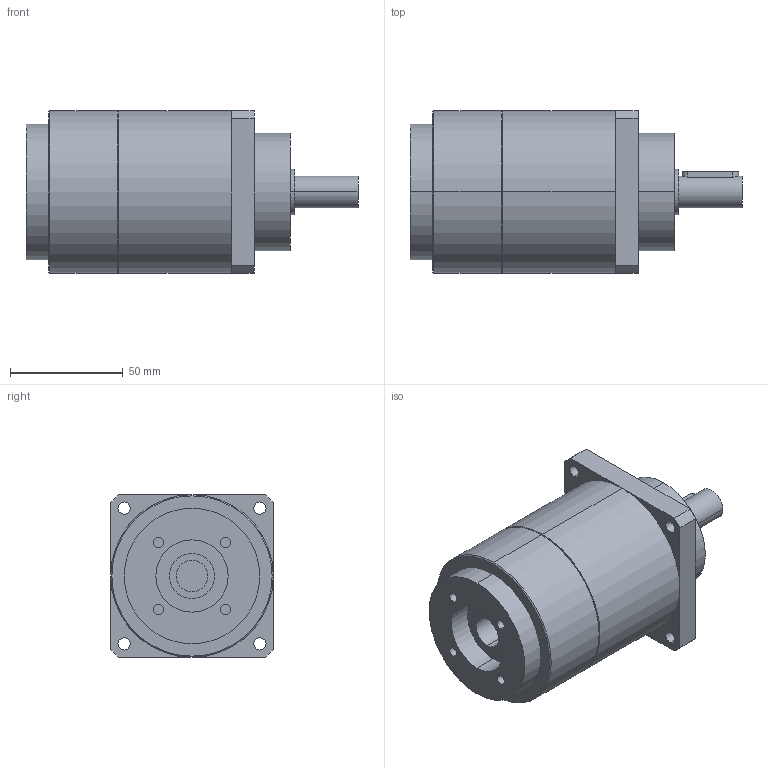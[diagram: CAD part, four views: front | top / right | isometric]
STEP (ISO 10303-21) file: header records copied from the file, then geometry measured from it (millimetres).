
FILE_DESCRIPTION(('CoCreate Modeling STEP Export'),'2;1');
FILE_NAME('GPT75_ig-9-12-16-20-25-28-35-40-50-70-100_14_B5T_14_P11.stp','2014-08-27T13:37:49',(''),(''),'CoCreate Modeling STEP processor for AP214 (Solid Model)','CoCreate Modeling 16.00C 25-Feb-2009 (C) Parametric Technology GmbH','');
FILE_SCHEMA(('AUTOMOTIVE_DESIGN { 1 0 10303 214 1 1 1 1 }'));
Length unit declared in the file: millimetre
Products named in the file (2): GPT75_ig-9-12-16-20-25-28-35-40-50-70-100_14_B5T_14_P11
Assembly tree (1 placements, depth 2):
  GPT75_ig-9-12-16-20-25-28-35-40-50-70-100_14_B5T_14_P11
    GPT75_ig-9-12-16-20-25-28-35-40-50-70-100_14_B5T_14_P11
Bounding box: 147 x 72 x 72 mm (x, y, z)
Volume: 435096.9 mm3; surface area: 41406.5 mm2
Topology: 1 solids, 1 shells, 72 faces, 170 edges, 113 vertices
Faces by surface type: cylinder 42, plane 26, cone 4
Entity records: 2201 total; most frequent: CARTESIAN_POINT 669, ORIENTED_EDGE 340, DIRECTION 268, EDGE_CURVE 170, VERTEX_POINT 113, AXIS2_PLACEMENT_3D 100, EDGE_LOOP 93, FACE_OUTER_BOUND 72
